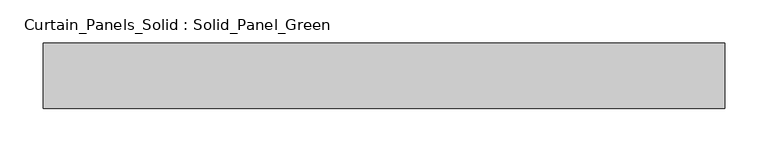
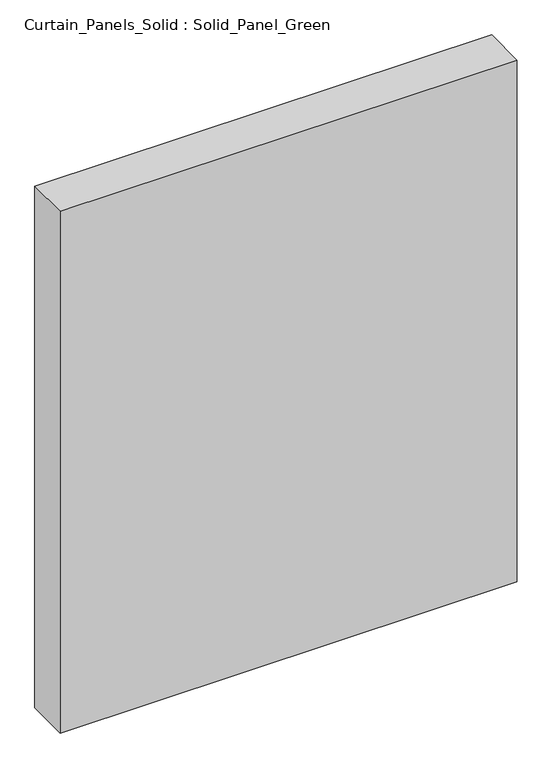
"""IFC4 building model written with IfcOpenShell, lengths in millimetres: plate geometry, Curtain_Panels_Solid : Solid_Panel_Green."""

from ifc_helpers import new_model, si_unit, origin, origin_with_axes, place, context, project, spatial, polyline, outline, extrude, source, transform, mapped, element, save


def curtain_panels_solid_solid_panel_green_c3e145d3(model_context):
    return source(origin(), model_context, "Body", "SweptSolid", [
        extrude(outline(polyline([(391.6666668, -25.0), (-391.6666668, -25.0), (-391.6666668, 50.0), (391.6666668, 50.0), (391.6666668, -25.0)])), origin_with_axes(), (0.0, 0.0, 1.0), 945.0),
    ])


if __name__ == "__main__":
    model = new_model("IFC4")
    model_context = context("Model", 3, world=origin())
    ifc_project = project(units=[si_unit("LENGTHUNIT", "METRE", prefix="MILLI")], contexts=[model_context])
    site = spatial("IfcSite", under=ifc_project)
    building = spatial("IfcBuilding", under=site)
    placement = place(None, origin())
    curtain_panels_solid_solid_panel_green_shape = curtain_panels_solid_solid_panel_green_c3e145d3(model_context)
    element("IfcPlate", 1, ObjectType="Curtain_Panels_Solid : Solid_Panel_Green", at=placement, inside=building, context=model_context, shape_type="MappedRepresentation", body=[
        mapped(curtain_panels_solid_solid_panel_green_shape, transform((0.0, 0.0, 0.0), x_axis=(1.0, 0.0, 0.0), y_axis=(0.0, 1.0, 0.0), z_axis=(0.0, 0.0, 1.0))),
    ])
    save(model, "model.ifc")
